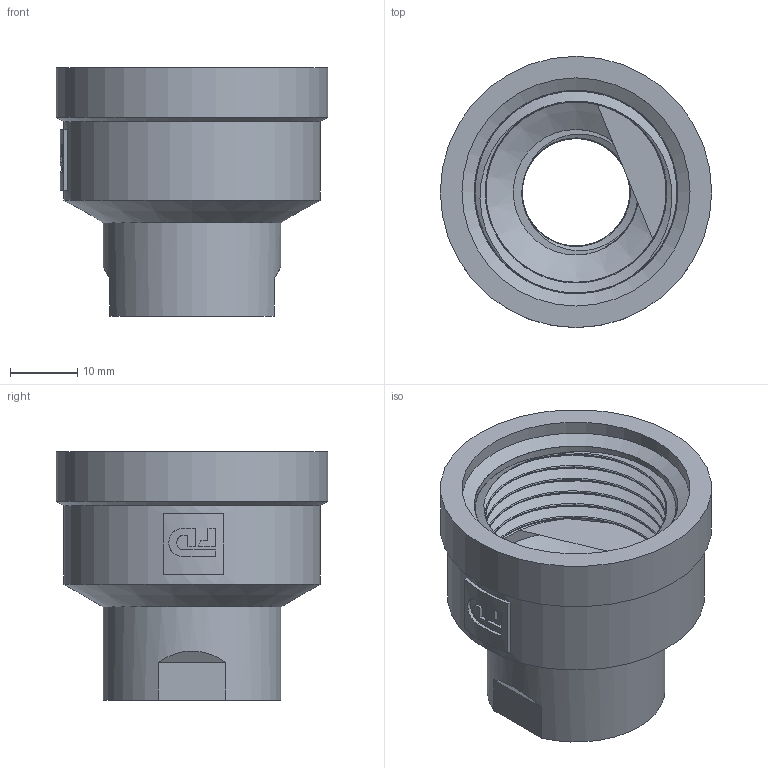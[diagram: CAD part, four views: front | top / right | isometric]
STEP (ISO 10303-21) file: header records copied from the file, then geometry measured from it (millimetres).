
FILE_DESCRIPTION(/* description */ (''),/* implementation_level */ '2;1');
FILE_NAME(/* name */ 'C:\Users\Doom\Desktop\Фадотех\Резьба\M11C 17.03.2020\M11C 17.03.2020.stp',/* time_stamp */ '2022-01-03T16:29:01+02:00',/* author */ ('Doom'),/* organization */ (''),/* preprocessor_version */ 'ST-DEVELOPER v18',/* originating_system */ 'Autodesk Inventor 2020',/* authorisation */ '');
FILE_SCHEMA (('AUTOMOTIVE_DESIGN { 1 0 10303 214 3 1 1 }'));
Length unit declared in the file: millimetre
Products named in the file (1): M11C 17.03.2020
Bounding box: 40.42 x 40.42 x 37 mm (x, y, z)
Volume: 16175.1 mm3; surface area: 14206.6 mm2
Topology: 3 solids, 3 shells, 77 faces, 214 edges, 144 vertices
Faces by surface type: plane 29, cylinder 28, bspline 16, cone 4
Full cylindrical faces by diameter (mm): 16.01 x7, 18.7 x2, 21.2 x1, 26.5 x1, 26.876 x5, 30.3 x2, 34 x1, 38.294 x1, 40.424 x1
Entity records: 10238 total; most frequent: CARTESIAN_POINT 8362, ORIENTED_EDGE 416, DIRECTION 325, EDGE_CURVE 208, VERTEX_POINT 141, AXIS2_PLACEMENT_3D 127, EDGE_LOOP 87, FACE_OUTER_BOUND 77
